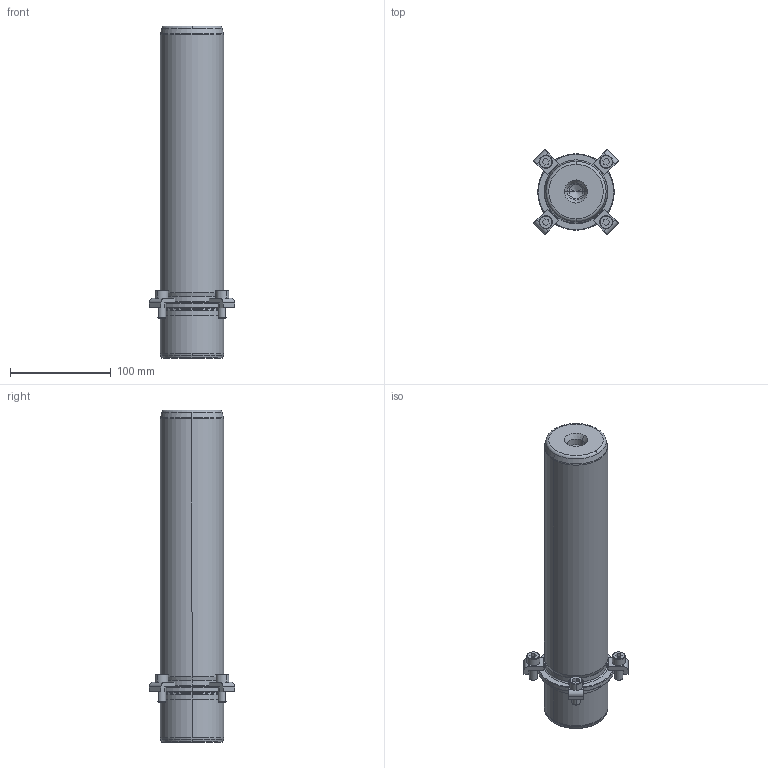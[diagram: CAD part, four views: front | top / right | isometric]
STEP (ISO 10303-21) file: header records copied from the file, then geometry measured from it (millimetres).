
FILE_DESCRIPTION((''),'2;1');
FILE_NAME('P21_063_280.stp','2008-12-23T09:22:53',(''),(''),'Mechanical Desktop 2009','Mechanical Desktop 2009',', , ');
FILE_SCHEMA(('CONFIG_CONTROL_DESIGN'));
Length unit declared in the file: millimetre
Products named in the file (2): Product; blmdl1
Assembly tree (1 placements, depth 2):
  Product
    blmdl1
Bounding box: 84.5 x 84.5 x 330 mm (x, y, z)
Volume: 1028072.6 mm3; surface area: 86941.1 mm2
Topology: 9 solids, 9 shells, 195 faces, 477 edges, 309 vertices
Faces by surface type: plane 77, cylinder 52, cone 34, torus 16, bspline 16
Entity records: 6547 total; most frequent: CARTESIAN_POINT 1683, DIRECTION 1078, ORIENTED_EDGE 946, EDGE_CURVE 473, AXIS2_PLACEMENT_3D 424, VERTEX_POINT 309, CIRCLE 243, VECTOR 230
